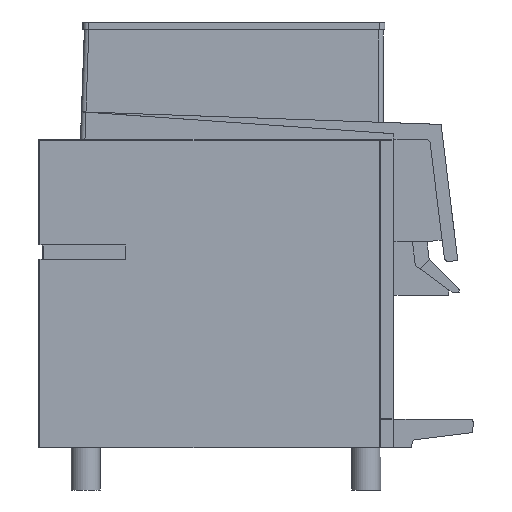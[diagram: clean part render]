
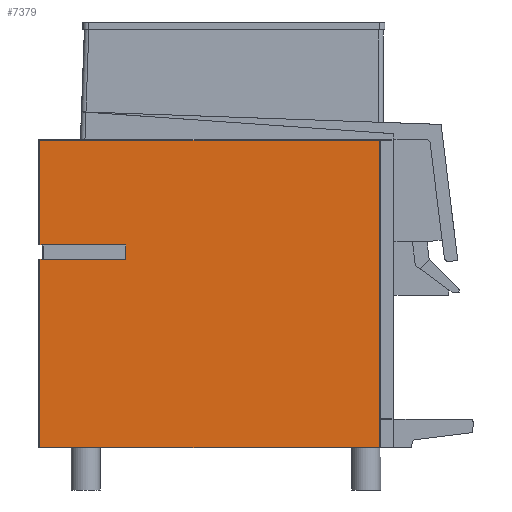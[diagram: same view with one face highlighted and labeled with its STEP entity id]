
A CAD part, left-side view. The second image highlights one B-rep face of the part: STEP entity #7379.
In plain terms, the highlighted planar face has unit normal (-1, 0, 0).
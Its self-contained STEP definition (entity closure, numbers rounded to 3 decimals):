
#747=ORIENTED_EDGE('',*,*,#1974,.F.);
#748=ORIENTED_EDGE('',*,*,#2258,.T.);
#749=ORIENTED_EDGE('',*,*,#2259,.T.);
#750=ORIENTED_EDGE('',*,*,#2260,.T.);
#751=ORIENTED_EDGE('',*,*,#2261,.F.);
#752=ORIENTED_EDGE('',*,*,#2262,.F.);
#753=ORIENTED_EDGE('',*,*,#2263,.F.);
#754=ORIENTED_EDGE('',*,*,#2264,.T.);
#755=ORIENTED_EDGE('',*,*,#2265,.T.);
#756=ORIENTED_EDGE('',*,*,#2266,.T.);
#1974=EDGE_CURVE('',#2755,#2756,#3261,.T.);
#2258=EDGE_CURVE('',#2755,#2976,#3473,.T.);
#2259=EDGE_CURVE('',#2976,#2977,#3474,.F.);
#2260=EDGE_CURVE('',#2977,#2978,#3475,.F.);
#2261=EDGE_CURVE('',#2979,#2978,#3476,.T.);
#2262=EDGE_CURVE('',#2980,#2979,#3477,.T.);
#2263=EDGE_CURVE('',#2981,#2980,#3478,.T.);
#2264=EDGE_CURVE('',#2981,#2982,#3479,.T.);
#2265=EDGE_CURVE('',#2982,#2983,#3480,.T.);
#2266=EDGE_CURVE('',#2983,#2756,#3481,.F.);
#2755=VERTEX_POINT('',#9814);
#2756=VERTEX_POINT('',#9816);
#2976=VERTEX_POINT('',#10369);
#2977=VERTEX_POINT('',#10371);
#2978=VERTEX_POINT('',#10373);
#2979=VERTEX_POINT('',#10375);
#2980=VERTEX_POINT('',#10377);
#2981=VERTEX_POINT('',#10379);
#2982=VERTEX_POINT('',#10381);
#2983=VERTEX_POINT('',#10383);
#3261=LINE('',#9815,#3886);
#3473=LINE('',#10368,#4098);
#3474=LINE('',#10370,#4099);
#3475=LINE('',#10372,#4100);
#3476=LINE('',#10374,#4101);
#3477=LINE('',#10376,#4102);
#3478=LINE('',#10378,#4103);
#3479=LINE('',#10380,#4104);
#3480=LINE('',#10382,#4105);
#3481=LINE('',#10384,#4106);
#3886=VECTOR('',#8217,1000.);
#4098=VECTOR('',#8671,1000.);
#4099=VECTOR('',#8672,1000.);
#4100=VECTOR('',#8673,1000.);
#4101=VECTOR('',#8674,1000.);
#4102=VECTOR('',#8675,1000.);
#4103=VECTOR('',#8676,1000.);
#4104=VECTOR('',#8677,1000.);
#4105=VECTOR('',#8678,1000.);
#4106=VECTOR('',#8679,1000.);
#4503=EDGE_LOOP('',(#747,#748,#749,#750,#751,#752,#753,#754,#755,#756));
#4814=FACE_BOUND('',#4503,.T.);
#5104=PLANE('',#7764);
#7379=ADVANCED_FACE('',(#4814),#5104,.F.);
#7764=AXIS2_PLACEMENT_3D('',#10367,#8669,#8670);
#8217=DIRECTION('',(0.,1.,0.));
#8669=DIRECTION('',(1.,0.,0.));
#8670=DIRECTION('',(0.,1.,0.));
#8671=DIRECTION('',(0.,0.,1.));
#8672=DIRECTION('',(0.,-1.,0.));
#8673=DIRECTION('',(0.,0.,1.));
#8674=DIRECTION('',(0.,1.,0.));
#8675=DIRECTION('',(0.,1.,0.));
#8676=DIRECTION('',(0.,0.,1.));
#8677=DIRECTION('',(0.,1.,0.));
#8678=DIRECTION('',(0.,1.,0.));
#8679=DIRECTION('',(0.,0.,1.));
#9814=CARTESIAN_POINT('',(-440.,-470.,0.));
#9815=CARTESIAN_POINT('',(-440.,-490.,0.));
#9816=CARTESIAN_POINT('',(-440.,-1.2,0.));
#10367=CARTESIAN_POINT('',(-440.,0.,0.));
#10368=CARTESIAN_POINT('',(-440.,-470.,420.5));
#10369=CARTESIAN_POINT('',(-440.,-470.,424.8));
#10370=CARTESIAN_POINT('',(-440.,0.,424.8));
#10371=CARTESIAN_POINT('',(-440.,-1.2,424.8));
#10372=CARTESIAN_POINT('',(-440.,-1.2,0.));
#10373=CARTESIAN_POINT('',(-440.,-1.2,280.));
#10374=CARTESIAN_POINT('',(-440.,-5.,280.));
#10375=CARTESIAN_POINT('',(-440.,-5.133,280.));
#10376=CARTESIAN_POINT('',(-440.,-120.,280.));
#10377=CARTESIAN_POINT('',(-440.,-120.,280.));
#10378=CARTESIAN_POINT('',(-440.,-120.,260.));
#10379=CARTESIAN_POINT('',(-440.,-120.,260.));
#10380=CARTESIAN_POINT('',(-440.,-120.,260.));
#10381=CARTESIAN_POINT('',(-440.,-5.133,260.));
#10382=CARTESIAN_POINT('',(-440.,-5.,260.));
#10383=CARTESIAN_POINT('',(-440.,-1.2,260.));
#10384=CARTESIAN_POINT('',(-440.,-1.2,0.));
